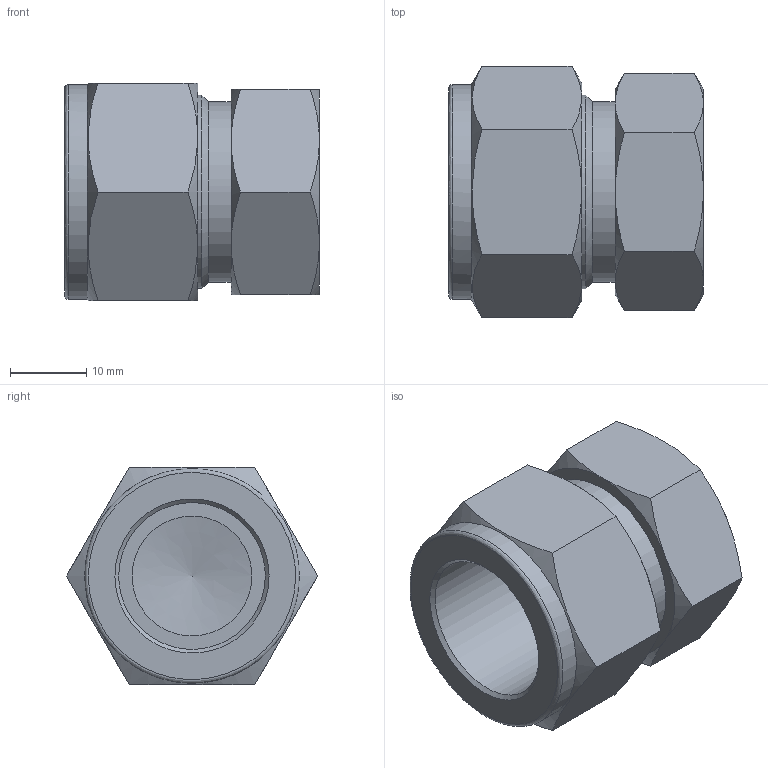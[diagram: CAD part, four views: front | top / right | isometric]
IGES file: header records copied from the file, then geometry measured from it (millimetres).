
Global section: file name: SC-12; native system: Autodesk Inventor 2016; preprocessor: unknown; author: DESIGNPC2; date: 20160312.132842; units: millimetre
Bounding box: 33.49 x 33 x 28.57 mm (x, y, z)
Volume: 13855 mm3; surface area: 6258.1 mm2
Topology: 1 solids, 1 shells, 40 faces, 99 edges, 64 vertices
Faces by surface type: bspline 40
